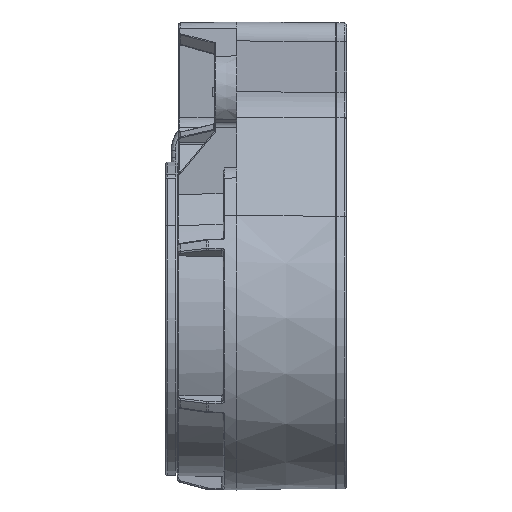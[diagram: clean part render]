
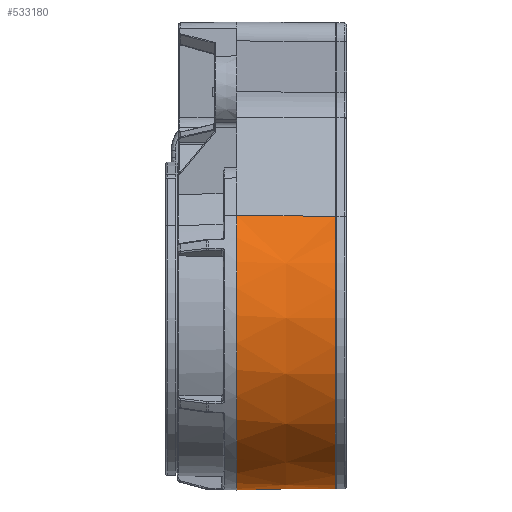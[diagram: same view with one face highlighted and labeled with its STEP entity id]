
A CAD part, left-side view. The second image highlights one B-rep face of the part: STEP entity #533180.
In plain terms, the highlighted conical face has half-angle 0.5 degrees and reference radius 21.75 mm.
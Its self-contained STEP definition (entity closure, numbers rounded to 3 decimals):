
#21760=CARTESIAN_POINT('',(2.553,15.333,
29.713));
#21770=VERTEX_POINT('',#21760);
#23270=CARTESIAN_POINT('',(31.331,15.333,
32.659));
#23280=VERTEX_POINT('',#23270);
#23310=CARTESIAN_POINT('',(18.581,15.333,15.179));
#23320=DIRECTION('',(0.,1.,0.));
#23330=DIRECTION('',(0.,0.,1.));
#23340=AXIS2_PLACEMENT_3D('',#23310,#23320,#23330);
#23350=CIRCLE('',#23340,21.636);
#23360=EDGE_CURVE('',#23280,#21770,#23350,.T.);
#73040=CARTESIAN_POINT('',(31.331,16.333,
37.929));
#73050=DIRECTION('',(-0.,0.,-1.));
#73060=DIRECTION('',(-1.,0.,0.));
#73070=AXIS2_PLACEMENT_3D('',#73040,#73050,#73060);
#73080=CYLINDRICAL_SURFACE('',#73070,1.);
#73130=CARTESIAN_POINT('',(32.331,16.333,
31.895));
#73140=VERTEX_POINT('',#73130);
#73190=CARTESIAN_POINT('',(18.581,28.383,15.179));
#73200=DIRECTION('',(0.,1.,0.));
#73210=DIRECTION('',(0.,0.,1.));
#73220=AXIS2_PLACEMENT_3D('',#73190,#73200,#73210);
#73230=CONICAL_SURFACE('',#73220,21.75,0.009);
#73240=CARTESIAN_POINT('',(32.331,16.333,
31.895));
#73250=CARTESIAN_POINT('',(32.331,16.184,
31.894));
#73260=CARTESIAN_POINT('',(32.298,16.039,
31.92));
#73270=CARTESIAN_POINT('',(32.237,15.91,
31.967));
#73280=CARTESIAN_POINT('',(32.178,15.783,
32.014));
#73290=CARTESIAN_POINT('',(32.095,15.675,
32.08));
#73300=CARTESIAN_POINT('',(32.,15.589,
32.154));
#73310=CARTESIAN_POINT('',(31.905,15.504,
32.228));
#73320=CARTESIAN_POINT('',(31.797,15.44,
32.312));
#73330=CARTESIAN_POINT('',(31.683,15.397,
32.398));
#73340=CARTESIAN_POINT('',(31.57,15.354,
32.483));
#73350=CARTESIAN_POINT('',(31.452,15.333,
32.571));
#73360=CARTESIAN_POINT('',(31.331,15.333,
32.659));
#73370=B_SPLINE_CURVE_WITH_KNOTS('',3,(#73240,#73250,#73260,#73270,
#73280,#73290,#73300,#73310,#73320,#73330,#73340,#73350,#73360),
.UNSPECIFIED.,.F.,.F.,(4,3,3,3,4),(0.,0.444,
0.889,1.333,1.779),.UNSPECIFIED.);
#73380=SURFACE_CURVE('',#73370,(#73080,#73230),.CURVE_3D.);
#73390=EDGE_CURVE('',#73140,#23280,#73380,.T.);
#400870=CARTESIAN_POINT('',(32.331,28.383,
32.031));
#400880=VERTEX_POINT('',#400870);
#400910=CARTESIAN_POINT('',(32.331,36.083,
31.391));
#400920=DIRECTION('',(-1.,0.,0.));
#400930=DIRECTION('',(0.,-1.,0.));
#400940=AXIS2_PLACEMENT_3D('',#400910,#400920,#400930);
#400950=PLANE('',#400940);
#400960=CARTESIAN_POINT('',(32.331,16.333,
31.895));
#400970=CARTESIAN_POINT('',(32.331,17.337,
31.907));
#400980=CARTESIAN_POINT('',(32.331,18.341,
31.918));
#400990=CARTESIAN_POINT('',(32.331,19.345,
31.929));
#401000=CARTESIAN_POINT('',(32.331,20.349,
31.941));
#401010=CARTESIAN_POINT('',(32.331,21.354,
31.952));
#401020=CARTESIAN_POINT('',(32.331,22.358,
31.963));
#401030=CARTESIAN_POINT('',(32.331,23.362,
31.975));
#401040=CARTESIAN_POINT('',(32.331,24.366,
31.986));
#401050=CARTESIAN_POINT('',(32.331,25.37,
31.997));
#401060=CARTESIAN_POINT('',(32.331,26.374,
32.009));
#401070=CARTESIAN_POINT('',(32.331,27.379,
32.02));
#401080=CARTESIAN_POINT('',(32.331,28.383,
32.031));
#401090=B_SPLINE_CURVE_WITH_KNOTS('',3,(#400960,#400970,#400980,#400990,
#401000,#401010,#401020,#401030,#401040,#401050,#401060,#401070,#401080)
,.UNSPECIFIED.,.F.,.F.,(4,3,3,3,4),(0.,3.013,6.025
,9.038,12.051),.UNSPECIFIED.);
#401100=SURFACE_CURVE('',#401090,(#400950,#73230),.CURVE_3D.);
#401110=EDGE_CURVE('',#73140,#400880,#401100,.T.);
#403510=CARTESIAN_POINT('',(39.888,28.383,
19.547));
#403520=VERTEX_POINT('',#403510);
#503520=CARTESIAN_POINT('',(2.469,28.383,
29.789));
#503530=VERTEX_POINT('',#503520);
#503560=CARTESIAN_POINT('',(18.581,28.383,15.179));
#503570=DIRECTION('',(0.,1.,0.));
#503580=DIRECTION('',(0.,0.,1.));
#503590=AXIS2_PLACEMENT_3D('',#503560,#503570,#503580);
#503600=CIRCLE('',#503590,21.75);
#503610=CARTESIAN_POINT('',(35.433,28.383,
1.429));
#503620=VERTEX_POINT('',#503610);
#503630=EDGE_CURVE('',#503620,#503530,#503600,.T.);
#508520=CARTESIAN_POINT('',(18.581,28.383,15.179));
#508530=DIRECTION('',(0.,1.,0.));
#508540=DIRECTION('',(0.,0.,1.));
#508550=AXIS2_PLACEMENT_3D('',#508520,#508530,#508540);
#508560=CIRCLE('',#508550,21.75);
#508570=EDGE_CURVE('',#403520,#503620,#508560,.T.);
#532980=CARTESIAN_POINT('',(18.581,28.383,15.179));
#532990=DIRECTION('',(0.,1.,0.));
#533000=DIRECTION('',(0.,0.,1.));
#533010=AXIS2_PLACEMENT_3D('',#532980,#532990,#533000);
#533020=CONICAL_SURFACE('',#533010,21.75,0.009);
#533030=ORIENTED_EDGE('',*,*,#508570,.F.);
#533040=ORIENTED_EDGE('',*,*,#503630,.F.);
#533050=CARTESIAN_POINT('',(2.469,28.383,
29.789));
#533060=DIRECTION('',(-0.006,1.,
0.006));
#533070=VECTOR('',#533060,2492.398);
#533080=LINE('',#533050,#533070);
#533090=EDGE_CURVE('',#21770,#503530,#533080,.T.);
#533100=ORIENTED_EDGE('',*,*,#533090,.T.);
#533110=ORIENTED_EDGE('',*,*,#23360,.T.);
#533120=ORIENTED_EDGE('',*,*,#73390,.T.);
#533130=ORIENTED_EDGE('',*,*,#401110,.F.);
#533140=EDGE_CURVE('',#400880,#403520,#503600,.T.);
#533150=ORIENTED_EDGE('',*,*,#533140,.F.);
#533160=EDGE_LOOP('',(#533150,#533130,#533120,#533110,#533100,#533040,
#533030));
#533170=FACE_OUTER_BOUND('',#533160,.T.);
#533180=ADVANCED_FACE('',(#533170),#533020,.T.);
